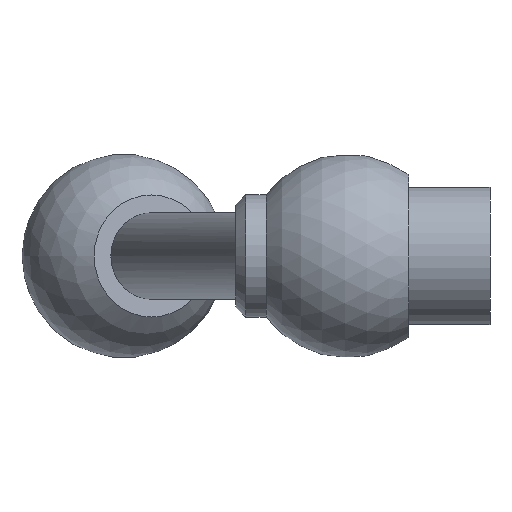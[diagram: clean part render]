
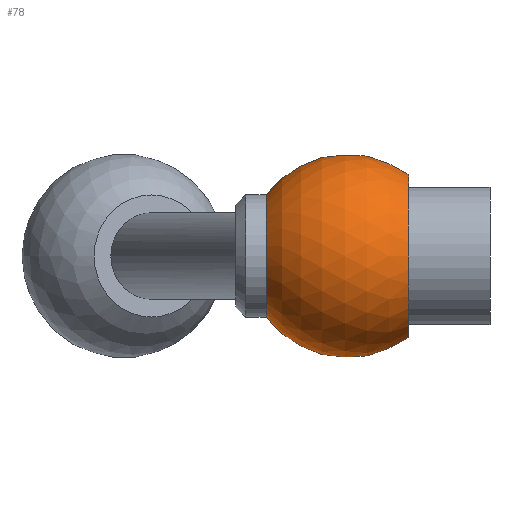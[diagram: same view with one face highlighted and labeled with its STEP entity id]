
A CAD part, left-side view. The second image highlights one B-rep face of the part: STEP entity #78.
In plain terms, the highlighted spherical face has radius 10 mm.
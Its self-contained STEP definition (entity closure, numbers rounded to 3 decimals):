
#78 = ADVANCED_FACE( '', ( #100, #101, #102 ), #103, .T. );
#100 = FACE_OUTER_BOUND( '', #145, .T. );
#101 = FACE_BOUND( '', #146, .T. );
#102 = FACE_OUTER_BOUND( '', #147, .T. );
#103 = SPHERICAL_SURFACE( '', #148, 10. );
#145 = EDGE_LOOP( '', ( #196 ) );
#146 = EDGE_LOOP( '', ( #197 ) );
#147 = EDGE_LOOP( '', ( #198 ) );
#148 = AXIS2_PLACEMENT_3D( '', #199, #200, #201 );
#196 = ORIENTED_EDGE( '', *, *, #261, .T. );
#197 = ORIENTED_EDGE( '', *, *, #260, .T. );
#198 = ORIENTED_EDGE( '', *, *, #262, .F. );
#199 = CARTESIAN_POINT( '', ( 0., 14., 0. ) );
#200 = DIRECTION( '', ( 0., -1., 0. ) );
#201 = DIRECTION( '', ( 1., 0., 0. ) );
#260 = EDGE_CURVE( '', #278, #278, #279, .T. );
#261 = EDGE_CURVE( '', #280, #280, #281, .T. );
#262 = EDGE_CURVE( '', #282, #282, #283, .T. );
#278 = VERTEX_POINT( '', #306 );
#279 = B_SPLINE_CURVE_WITH_KNOTS( '', 3, ( #307, #308, #309, #310, #311, #312, #313, #314, #315, #316, #317, #318, #319, #320, #321, #322, #323, #324, #325, #326, #327, #328, #329, #330, #331, #332, #333, #334, #335, #336, #337, #338, #339, #340, #341, #342, #343, #344, #345, #346, #347, #348, #349, #350, #351, #352, #353, #354, #355, #356, #357, #358, #359, #360, #361, #362, #363, #364, #365, #366, #367, #368, #369, #370, #371, #372 ), .UNSPECIFIED., .T., .F., ( 2, 2, 2, 2, 2, 2, 2, 2, 2, 2, 2, 2, 2, 2, 2, 2, 2, 2, 2, 2, 2, 2, 2, 2, 2, 2, 2, 2, 2, 2, 2, 2, 2, 2, 2 ), ( -0.001, 0., 0.001, 0.002, 0.002, 0.003, 0.004, 0.005, 0.006, 0.007, 0.007, 0.008, 0.009, 0.01, 0.011, 0.012, 0.012, 0.013, 0.014, 0.015, 0.016, 0.017, 0.017, 0.018, 0.019, 0.02, 0.021, 0.022, 0.022, 0.023, 0.024, 0.025, 0.026, 0.027, 0.027 ), .UNSPECIFIED. );
#280 = VERTEX_POINT( '', #373 );
#281 = CIRCLE( '', #374, 6. );
#282 = VERTEX_POINT( '', #375 );
#283 = CIRCLE( '', #376, 8. );
#306 = CARTESIAN_POINT( '', ( 9.64, 14.14, -2.657 ) );
#307 = CARTESIAN_POINT( '', ( 9.577, 14.304, -2.876 ) );
#308 = CARTESIAN_POINT( '', ( 9.702, 13.976, -2.438 ) );
#309 = CARTESIAN_POINT( '', ( 9.756, 13.835, -2.205 ) );
#310 = CARTESIAN_POINT( '', ( 9.848, 13.597, -1.713 ) );
#311 = CARTESIAN_POINT( '', ( 9.885, 13.499, -1.452 ) );
#312 = CARTESIAN_POINT( '', ( 9.941, 13.354, -0.916 ) );
#313 = CARTESIAN_POINT( '', ( 9.959, 13.306, -0.644 ) );
#314 = CARTESIAN_POINT( '', ( 9.976, 13.261, -0.091 ) );
#315 = CARTESIAN_POINT( '', ( 9.975, 13.265, 0.192 ) );
#316 = CARTESIAN_POINT( '', ( 9.953, 13.322, 0.743 ) );
#317 = CARTESIAN_POINT( '', ( 9.933, 13.375, 1.014 ) );
#318 = CARTESIAN_POINT( '', ( 9.872, 13.532, 1.547 ) );
#319 = CARTESIAN_POINT( '', ( 9.833, 13.635, 1.805 ) );
#320 = CARTESIAN_POINT( '', ( 9.737, 13.885, 2.29 ) );
#321 = CARTESIAN_POINT( '', ( 9.681, 14.032, 2.521 ) );
#322 = CARTESIAN_POINT( '', ( 9.552, 14.368, 2.949 ) );
#323 = CARTESIAN_POINT( '', ( 9.481, 14.554, 3.143 ) );
#324 = CARTESIAN_POINT( '', ( 9.326, 14.958, 3.489 ) );
#325 = CARTESIAN_POINT( '', ( 9.242, 15.179, 3.644 ) );
#326 = CARTESIAN_POINT( '', ( 9.065, 15.64, 3.9 ) );
#327 = CARTESIAN_POINT( '', ( 8.973, 15.88, 4.003 ) );
#328 = CARTESIAN_POINT( '', ( 8.782, 16.379, 4.158 ) );
#329 = CARTESIAN_POINT( '', ( 8.683, 16.638, 4.21 ) );
#330 = CARTESIAN_POINT( '', ( 8.485, 17.153, 4.258 ) );
#331 = CARTESIAN_POINT( '', ( 8.386, 17.412, 4.255 ) );
#332 = CARTESIAN_POINT( '', ( 8.187, 17.933, 4.194 ) );
#333 = CARTESIAN_POINT( '', ( 8.089, 18.187, 4.136 ) );
#334 = CARTESIAN_POINT( '', ( 7.9, 18.68, 3.969 ) );
#335 = CARTESIAN_POINT( '', ( 7.808, 18.922, 3.859 ) );
#336 = CARTESIAN_POINT( '', ( 7.633, 19.378, 3.59 ) );
#337 = CARTESIAN_POINT( '', ( 7.551, 19.592, 3.434 ) );
#338 = CARTESIAN_POINT( '', ( 7.399, 19.989, 3.077 ) );
#339 = CARTESIAN_POINT( '', ( 7.328, 20.174, 2.874 ) );
#340 = CARTESIAN_POINT( '', ( 7.204, 20.498, 2.441 ) );
#341 = CARTESIAN_POINT( '', ( 7.15, 20.639, 2.21 ) );
#342 = CARTESIAN_POINT( '', ( 7.058, 20.88, 1.714 ) );
#343 = CARTESIAN_POINT( '', ( 7.02, 20.977, 1.453 ) );
#344 = CARTESIAN_POINT( '', ( 6.965, 21.122, 0.922 ) );
#345 = CARTESIAN_POINT( '', ( 6.946, 21.17, 0.647 ) );
#346 = CARTESIAN_POINT( '', ( 6.929, 21.215, 0.089 ) );
#347 = CARTESIAN_POINT( '', ( 6.93, 21.212, -0.188 ) );
#348 = CARTESIAN_POINT( '', ( 6.952, 21.156, -0.739 ) );
#349 = CARTESIAN_POINT( '', ( 6.973, 21.101, -1.015 ) );
#350 = CARTESIAN_POINT( '', ( 7.033, 20.945, -1.546 ) );
#351 = CARTESIAN_POINT( '', ( 7.071, 20.843, -1.8 ) );
#352 = CARTESIAN_POINT( '', ( 7.167, 20.593, -2.288 ) );
#353 = CARTESIAN_POINT( '', ( 7.224, 20.444, -2.521 ) );
#354 = CARTESIAN_POINT( '', ( 7.352, 20.112, -2.945 ) );
#355 = CARTESIAN_POINT( '', ( 7.423, 19.927, -3.139 ) );
#356 = CARTESIAN_POINT( '', ( 7.579, 19.518, -3.49 ) );
#357 = CARTESIAN_POINT( '', ( 7.663, 19.3, -3.642 ) );
#358 = CARTESIAN_POINT( '', ( 7.839, 18.842, -3.898 ) );
#359 = CARTESIAN_POINT( '', ( 7.932, 18.598, -4.003 ) );
#360 = CARTESIAN_POINT( '', ( 8.124, 18.098, -4.159 ) );
#361 = CARTESIAN_POINT( '', ( 8.221, 17.843, -4.209 ) );
#362 = CARTESIAN_POINT( '', ( 8.419, 17.327, -4.258 ) );
#363 = CARTESIAN_POINT( '', ( 8.52, 17.063, -4.255 ) );
#364 = CARTESIAN_POINT( '', ( 8.717, 16.548, -4.194 ) );
#365 = CARTESIAN_POINT( '', ( 8.814, 16.294, -4.138 ) );
#366 = CARTESIAN_POINT( '', ( 9.005, 15.797, -3.97 ) );
#367 = CARTESIAN_POINT( '', ( 9.097, 15.556, -3.859 ) );
#368 = CARTESIAN_POINT( '', ( 9.271, 15.103, -3.593 ) );
#369 = CARTESIAN_POINT( '', ( 9.353, 14.888, -3.436 ) );
#370 = CARTESIAN_POINT( '', ( 9.507, 14.486, -3.076 ) );
#371 = CARTESIAN_POINT( '', ( 9.577, 14.304, -2.876 ) );
#372 = CARTESIAN_POINT( '', ( 9.702, 13.976, -2.438 ) );
#373 = CARTESIAN_POINT( '', ( 6., 22., 0. ) );
#374 = AXIS2_PLACEMENT_3D( '', #402, #403, #404 );
#375 = CARTESIAN_POINT( '', ( 8., 8., 0. ) );
#376 = AXIS2_PLACEMENT_3D( '', #405, #406, #407 );
#402 = CARTESIAN_POINT( '', ( 0., 22., 0. ) );
#403 = DIRECTION( '', ( 0., -1., 0. ) );
#404 = DIRECTION( '', ( 1., 0., 0. ) );
#405 = CARTESIAN_POINT( '', ( 0., 8., 0. ) );
#406 = DIRECTION( '', ( 0., -1., 0. ) );
#407 = DIRECTION( '', ( 1., 0., 0. ) );
